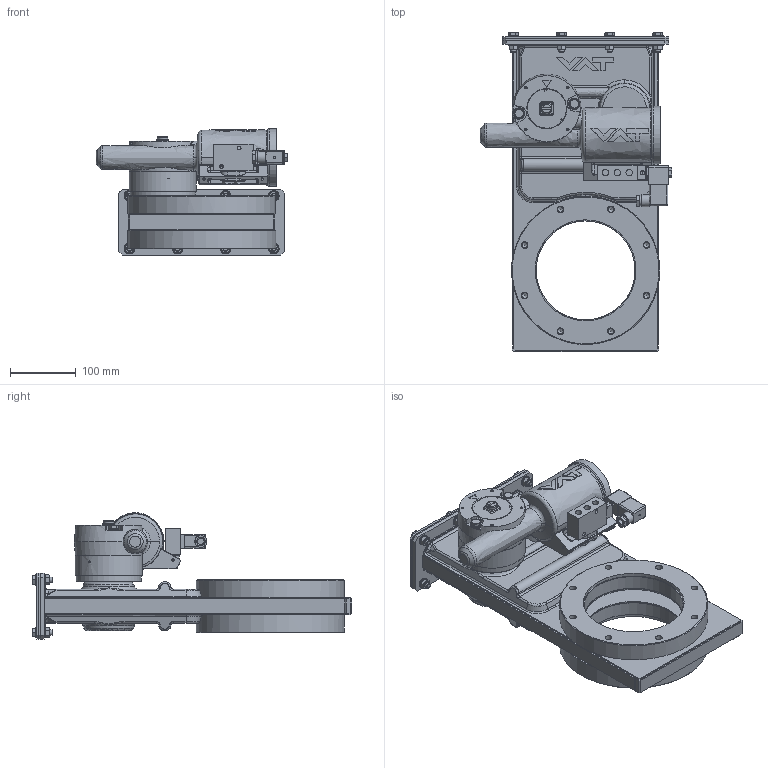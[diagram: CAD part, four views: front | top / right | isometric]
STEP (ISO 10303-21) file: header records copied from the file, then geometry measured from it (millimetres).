
FILE_DESCRIPTION((''),'2;1');
FILE_NAME('O:\MT\MT\Systeme\Cad\Datenexporte\www_vat_ch\236898.stp','2005-07-25T15:23:50',('User'),('SDRC'),'I-DEAS Master Series 9','UNIX','Yes');
FILE_SCHEMA(('CONFIG_CONTROL_DESIGN'));
Length unit declared in the file: millimetre
Assembly tree (64 placements, depth 0):
Bounding box: 290.8 x 483.9 x 191.66 mm (x, y, z)
Volume: 2930918 mm3; surface area: 1034276.6 mm2
Topology: 86 solids, 86 shells, 1601 faces, 3631 edges, 2281 vertices
Faces by surface type: bspline 1601
Entity records: 43708 total; most frequent: CARTESIAN_POINT 22343, ORIENTED_EDGE 5482, EDGE_CURVE 2741, VERTEX_POINT 1737, EDGE_LOOP 1368, FACE_OUTER_BOUND 1150, ADVANCED_FACE 1150, B_SPLINE_CURVE_WITH_KNOTS 968
